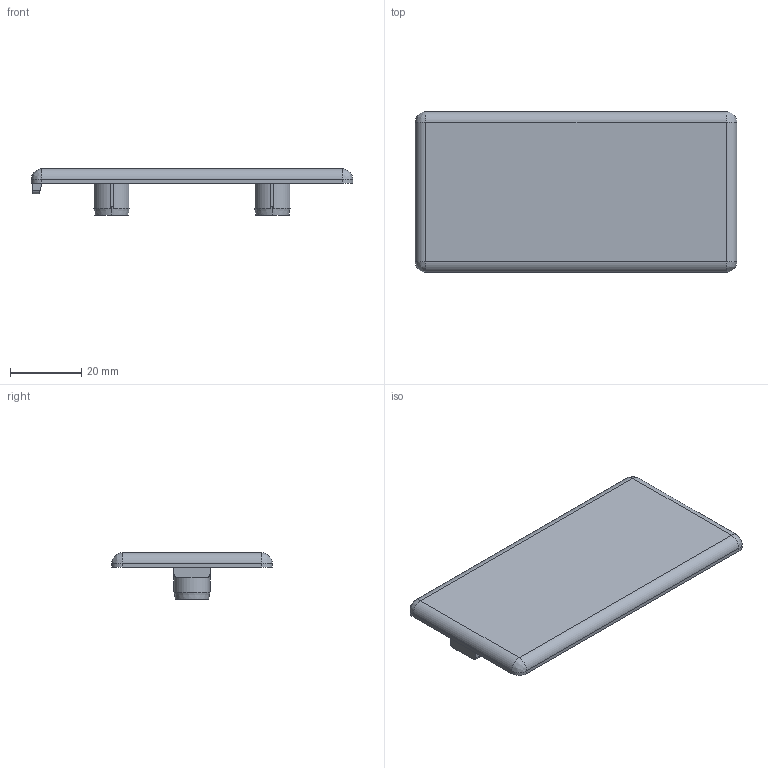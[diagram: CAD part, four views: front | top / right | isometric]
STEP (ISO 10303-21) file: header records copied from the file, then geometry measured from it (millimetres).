
FILE_DESCRIPTION (( 'STEP AP203' ), '1' );
FILE_NAME ('0110AK9045.STEP', '2024-03-06T14:41:36', ( 'Windows-Benutzer' ), ( '' ), 'SwSTEP 2.0', 'SolidWorks 2023', '' );
FILE_SCHEMA (( 'CONFIG_CONTROL_DESIGN' ));
Length unit declared in the file: millimetre
Products named in the file (1): 0110AK9045
Bounding box: 90 x 45 x 13 mm (x, y, z)
Volume: 13128.3 mm3; surface area: 10192.3 mm2
Topology: 1 solids, 1 shells, 60 faces, 147 edges, 90 vertices
Faces by surface type: plane 28, cylinder 24, cone 4, bspline 4
Entity records: 1860 total; most frequent: CARTESIAN_POINT 384, DIRECTION 299, ORIENTED_EDGE 286, EDGE_CURVE 143, AXIS2_PLACEMENT_3D 109, VERTEX_POINT 90, VECTOR 81, LINE 81
